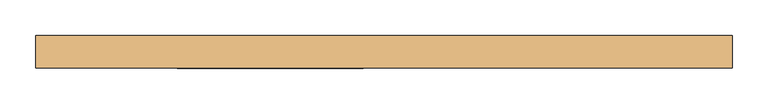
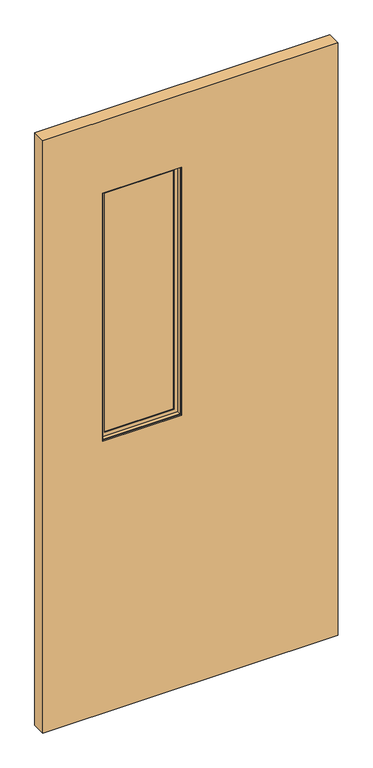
"""IFC4 building model written with IfcOpenShell, lengths in millimetres: door geometry, Solid_Hinged_Door_Glass_insert-AIH-Teknion-FHDB-Leaf_Single-R2022 : (A) Justified Half Glass insert."""

from ifc_helpers import new_model, si_unit, frame, origin, place, context, project, spatial, polyline, outline, extrude, faceted_brep, source, transform, mapped, element, save


def door_36adff39(model_context):
    return source(origin(), model_context, "Body", "SolidModel", [
        extrude(outline(polyline([(-29.4464326, -3.175), (-291.0664326, -3.175), (-291.0664326, 3.175), (-29.4464326, 3.175), (-29.4464326, -3.175)])), frame((0.0, 0.0, 968.7435027), z_axis=(0.0, 0.0, 1.0), x_axis=(1.0, 0.0, 0.0)), (0.0, 0.0, 1.0), 871.22),
        faceted_brep([(-275.1758536, 3.797467, 1824.0729238), (-275.1758536, 3.797467, 984.6340817), (-275.1758536, 6.9755828, 984.6340817), (-275.1758536, 6.9755828, 1824.0729238), (-45.3370115, 3.797467, 984.6340817), (-45.3370115, 6.9755828, 984.6340817), (-32.6245484, 6.9755828, 971.9216185), (-287.8883168, 6.9755828, 971.9216185), (-287.8883168, 6.9755828, 1836.7853869), (-32.6245484, 6.9755828, 1836.7853869), (-45.3370115, 6.9755828, 1824.0729238), (-45.3370115, 3.797467, 1824.0729238), (-291.0664326, 3.797467, 968.7435027), (-29.4464326, 3.797467, 968.7435027), (-29.4464326, 3.797467, 1839.9635027), (-291.0664326, 3.797467, 1839.9635027), (-291.0664326, 19.688046, 1839.9635027), (-291.0664326, 19.688046, 968.7435027), (-29.4464326, 19.688046, 968.7435027), (-29.4464326, 19.688046, 1839.9635027), (-287.8883168, 19.688046, 971.9216185), (-32.6245484, 19.688046, 971.9216185), (-32.6245484, 19.688046, 1836.7853869), (-287.8883168, 19.688046, 1836.7853869)], [[[0, 1, 2, 3]], [[1, 4, 5, 2]], [[6, 7, 8, 9], [2, 5, 10, 3]], [[4, 11, 10, 5]], [[12, 13, 14, 15], [4, 1, 0, 11]], [[16, 17, 12, 15]], [[17, 18, 13, 12]], [[18, 19, 14, 13]], [[18, 17, 16, 19], [20, 21, 22, 23]], [[8, 7, 20, 23]], [[7, 6, 21, 20]], [[6, 9, 22, 21]], [[11, 0, 3, 10]], [[19, 16, 15, 14]], [[9, 8, 23, 22]]]),
        faceted_brep([(-287.8883168, -19.688046, 1836.7853869), (-287.8883168, -19.688046, 971.9216185), (-287.8883168, -6.9755828, 971.9216185), (-287.8883168, -6.9755828, 1836.7853869), (-32.6245484, -19.688046, 971.9216185), (-32.6245484, -6.9755828, 971.9216185), (-32.6245484, -6.9755828, 1836.7853869), (-45.3370115, -6.9755828, 984.6340817), (-275.1758536, -6.9755828, 984.6340817), (-275.1758536, -6.9755828, 1824.0729238), (-45.3370115, -6.9755828, 1824.0729238), (-32.6245484, -19.688046, 1836.7853869), (-291.0664326, -19.688046, 968.7435027), (-29.4464326, -19.688046, 968.7435027), (-29.4464326, -19.688046, 1839.9635027), (-291.0664326, -19.688046, 1839.9635027), (-291.0664326, -3.797467, 1839.9635027), (-291.0664326, -3.797467, 968.7435027), (-29.4464326, -3.797467, 968.7435027), (-29.4464326, -3.797467, 1839.9635027), (-275.1758536, -3.797467, 984.6340817), (-45.3370115, -3.797467, 984.6340817), (-45.3370115, -3.797467, 1824.0729238), (-275.1758536, -3.797467, 1824.0729238)], [[[0, 1, 2, 3]], [[1, 4, 5, 2]], [[2, 5, 6, 3], [7, 8, 9, 10]], [[4, 11, 6, 5]], [[12, 13, 14, 15], [4, 1, 0, 11]], [[16, 17, 12, 15]], [[17, 18, 13, 12]], [[18, 19, 14, 13]], [[18, 17, 16, 19], [20, 21, 22, 23]], [[9, 8, 20, 23]], [[8, 7, 21, 20]], [[7, 10, 22, 21]], [[11, 0, 3, 6]], [[19, 16, 15, 14]], [[10, 9, 23, 22]]]),
        extrude(outline(polyline([(2093.9635027, -490.4564326), (12.7, -490.4564326), (12.7, 490.4564326), (2093.9635027, 490.4564326), (2093.9635027, -490.4564326)]), holes=[polyline([(1839.9635027, -29.4464326), (968.7435027, -29.4464326), (968.7435027, -291.0664326), (1839.9635027, -291.0664326), (1839.9635027, -29.4464326)])]), frame((0.0, -23.114, 0.0), z_axis=(0.0, 1.0, 0.0), x_axis=(0.0, 0.0, 1.0)), (0.0, 0.0, 1.0), 46.228),
        extrude(outline(polyline([(465.0564326, 9.8925062), (-465.0564326, 9.8925062), (-465.0564326, 11.4927062), (465.0564326, 11.4927062), (465.0564326, 9.8925062)])), frame((0.0, 0.0, 12.7), z_axis=(0.0, 0.0, 1.0), x_axis=(1.0, 0.0, 0.0)), (0.0, 0.0, 1.0), 254.0),
        extrude(outline(polyline([(465.0564326, 21.5634094), (-465.0564326, 21.5634094), (-465.0564326, 23.114), (465.0564326, 23.114), (465.0564326, 21.5634094)])), frame((0.0, 0.0, 12.7), z_axis=(0.0, 0.0, 1.0), x_axis=(1.0, 0.0, 0.0)), (0.0, 0.0, 1.0), 254.0),
    ])


if __name__ == "__main__":
    model = new_model("IFC4")
    model_context = context("Model", 3, world=origin())
    ifc_project = project(units=[si_unit("LENGTHUNIT", "METRE", prefix="MILLI")], contexts=[model_context])
    site = spatial("IfcSite", under=ifc_project)
    building = spatial("IfcBuilding", under=site)
    placement = place(None, origin())
    door_shape = door_36adff39(model_context)
    element("IfcDoor", 1, ObjectType="Solid_Hinged_Door_Glass_insert-AIH-Teknion-FHDB-Leaf_Single-R2022 : (A) Justified Half Glass insert", at=placement, inside=building, context=model_context, shape_type="MappedRepresentation", body=[
        mapped(door_shape, transform((0.0, 0.0, 0.0), x_axis=(1.0, 0.0, 0.0), y_axis=(0.0, 1.0, 0.0), z_axis=(0.0, 0.0, 1.0))),
    ])
    save(model, "model.ifc")
